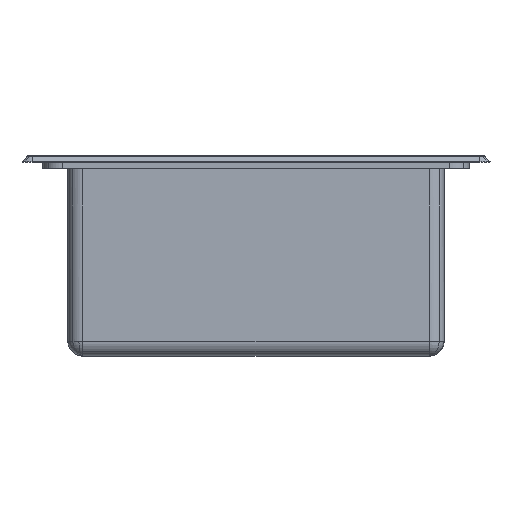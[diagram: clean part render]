
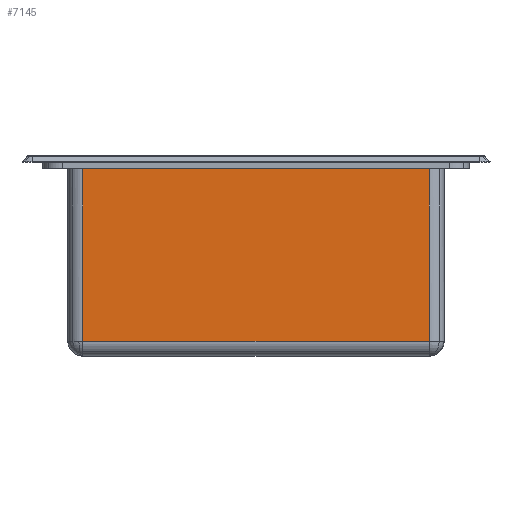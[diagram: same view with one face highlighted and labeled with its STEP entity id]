
A CAD part, left-side view. The second image highlights one B-rep face of the part: STEP entity #7145.
In plain terms, the highlighted planar face has unit normal (-1, 0, 0).
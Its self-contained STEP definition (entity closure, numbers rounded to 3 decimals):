
#6760=CARTESIAN_POINT('Line Origine',(1144.,0.,6.)) ;
#6764=CARTESIAN_POINT('Vertex',(1144.,-185.,6.)) ;
#6766=CARTESIAN_POINT('Vertex',(1144.,185.,6.)) ;
#7053=CARTESIAN_POINT('Vertex',(1144.,-185.,-178.)) ;
#7061=CARTESIAN_POINT('Line Origine',(1144.,-185.,-94.)) ;
#7122=CARTESIAN_POINT('Axis2P3D Location',(1144.,185.,6.)) ;
#7127=CARTESIAN_POINT('Line Origine',(1144.,0.,-178.)) ;
#7131=CARTESIAN_POINT('Vertex',(1144.,185.,-178.)) ;
#7134=CARTESIAN_POINT('Line Origine',(1144.,185.,-86.)) ;
#6761=DIRECTION('Vector Direction',(0.,-1.,0.)) ;
#7062=DIRECTION('Vector Direction',(0.,0.,-1.)) ;
#7123=DIRECTION('Axis2P3D Direction',(1.,0.,0.)) ;
#7124=DIRECTION('Axis2P3D XDirection',(0.,-1.,0.)) ;
#7128=DIRECTION('Vector Direction',(0.,-1.,0.)) ;
#7135=DIRECTION('Vector Direction',(0.,0.,1.)) ;
#7125=AXIS2_PLACEMENT_3D('Plane Axis2P3D',#7122,#7123,#7124) ;
#7140=ORIENTED_EDGE('',*,*,#7133,.F.) ;
#7141=ORIENTED_EDGE('',*,*,#7065,.F.) ;
#7142=ORIENTED_EDGE('',*,*,#6768,.T.) ;
#7143=ORIENTED_EDGE('',*,*,#7138,.T.) ;
#6762=VECTOR('Line Direction',#6761,1.) ;
#7063=VECTOR('Line Direction',#7062,1.) ;
#7129=VECTOR('Line Direction',#7128,1.) ;
#7136=VECTOR('Line Direction',#7135,1.) ;
#7145=ADVANCED_FACE('Vasca-CTP.2',(#7144),#7126,.F.) ;
#6768=EDGE_CURVE('',#6765,#6767,#6763,.F.) ;
#7065=EDGE_CURVE('',#6765,#7054,#7064,.T.) ;
#7133=EDGE_CURVE('',#7054,#7132,#7130,.F.) ;
#7138=EDGE_CURVE('',#6767,#7132,#7137,.F.) ;
#7139=EDGE_LOOP('',(#7140,#7141,#7142,#7143)) ;
#7144=FACE_OUTER_BOUND('',#7139,.T.) ;
#6763=LINE('Line',#6760,#6762) ;
#7064=LINE('Line',#7061,#7063) ;
#7130=LINE('Line',#7127,#7129) ;
#7137=LINE('Line',#7134,#7136) ;
#7126=PLANE('',#7125) ;
#6765=VERTEX_POINT('',#6764) ;
#6767=VERTEX_POINT('',#6766) ;
#7054=VERTEX_POINT('',#7053) ;
#7132=VERTEX_POINT('',#7131) ;
